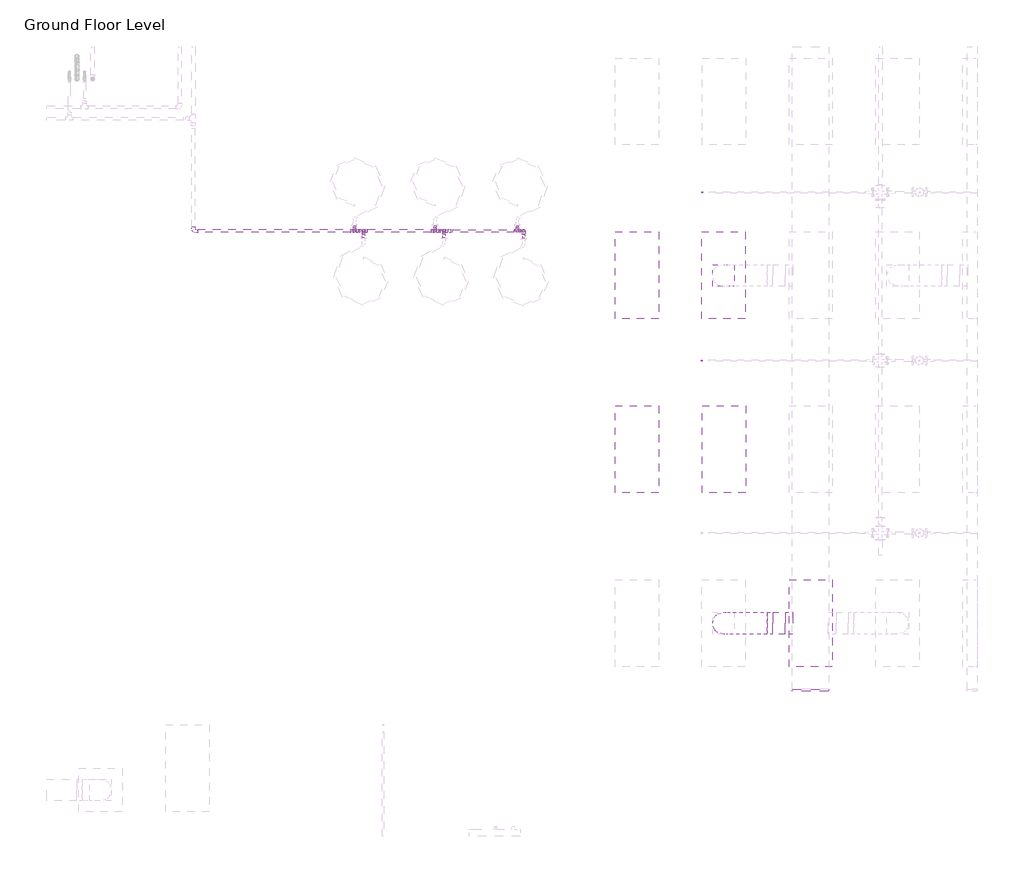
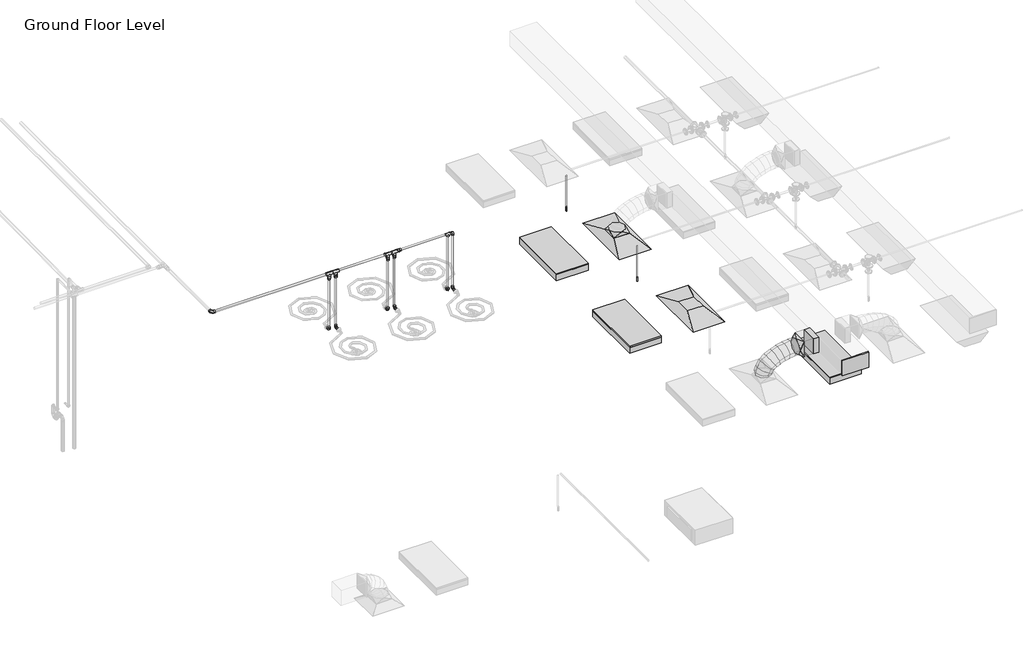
# One storey, part 43 of 68: 20 pipe segments, 18 pipe fittings, 4 duct fittings, 3 light fixtures, 2 air terminals, 2 duct segments, 2 fire suppression terminals.
"""IFC4 building model written with IfcOpenShell, lengths in millimetres."""

from ifc_helpers import new_model, si_unit, point, frame, frame_2d, origin, place, context, project, spatial, polyline, circle_curve, ellipse_curve, trimmed, segment, composite_curve, outline, extrude, transform, mapped, element, save
from ifc_brep_helpers import plane_surface, cylinder_surface, advanced_brep
from components import m_return_diffuser_1200x600_1200_x_600_face_300_x_300_d1983ef6, m_rectangular_endcap_standard_72d4d00d, m_rectangular_takeoff_standard_2be5eba1, m_rectangular_to_round_transition_angle_45_degree_641efff0, m_sprinkler_dry_pendent_hosted_15_mm_dry_pendent_9bda8e11, m_troffer_light_parabolic_rectangular1_0600x1200mm_4_lamp_86473d4a, standard_517a5a8d, standard_72b35c3b, standard_08ff6011, standard_d0d0b892, standard_69e4ce0e

model = new_model("IFC4")

# Units and contexts
model_context = context("Model", 3, world=origin())
ifc_project = project(units=[si_unit("LENGTHUNIT", "METRE", prefix="MILLI")], contexts=[model_context])

# Site, building, storey
site = spatial("IfcSite", under=ifc_project)
building = spatial("IfcBuilding", under=site)
storey = spatial("IfcBuildingStorey", under=building, Name="Ground Floor Level", Elevation=900.0)

# Air terminals
placement = place(None, origin())
m_return_diffuser_1200x600_1200_x_600_face_300_x_300_shape = m_return_diffuser_1200x600_1200_x_600_face_300_x_300_d1983ef6(model_context)
element("IfcAirTerminal", 1, ObjectType="M_Return Diffuser 1200x600 : 1200 x 600 Face 300 x 300 Connection", at=placement, inside=storey, context=model_context, shape_type="MappedRepresentation", body=[
    mapped(m_return_diffuser_1200x600_1200_x_600_face_300_x_300_shape, transform((-8137.2327605, 4035.2153534, 3650.0), x_axis=(0.0, 1.0, 0.0), y_axis=(-1.0, 0.0, 0.0), z_axis=(0.0, 0.0, 1.0))),
])
element("IfcAirTerminal", 2, ObjectType="M_Supply Diffuser 1200x600 : 1200 x 600 Face 300 x 300 Connection", at=placement, inside=storey, context=model_context, shape_type="MappedRepresentation", body=[
    mapped(m_return_diffuser_1200x600_1200_x_600_face_300_x_300_shape, transform((-8142.6846929, 6435.2153534, 3650.0), x_axis=(0.0, 1.0, 0.0), y_axis=(-1.0, 0.0, 0.0), z_axis=(0.0, 0.0, 1.0))),
])

# Duct fittings
m_rectangular_endcap_standard_shape = m_rectangular_endcap_standard_72d4d00d(model_context)
element("IfcDuctFitting", 3, ObjectType="M_Rectangular Endcap : Standard", at=placement, inside=storey, context=model_context, shape_type="MappedRepresentation", body=[
    mapped(m_rectangular_endcap_standard_shape, transform((-6939.6910789, 725.2153534, 4150.0), x_axis=(0.0, -1.0, 0.0), y_axis=(1.0, 0.0, 0.0), z_axis=(0.0, 0.0, 1.0))),
])
m_rectangular_takeoff_standard_shape = m_rectangular_takeoff_standard_2be5eba1(model_context)
element("IfcDuctFitting", 4, ObjectType="M_Rectangular Takeoff : Standard", at=placement, inside=storey, context=model_context, shape_type="MappedRepresentation", body=[
    mapped(m_rectangular_takeoff_standard_shape, transform((-7189.6910789, 1635.2153534, 4150.0), x_axis=(-1.0, 0.0, 0.0), y_axis=(0.0, 1.0, 0.0), z_axis=(0.0, 0.0, -1.0))),
])
m_rectangular_to_round_transition_angle_45_degree_shape = m_rectangular_to_round_transition_angle_45_degree_641efff0(model_context)
element("IfcDuctFitting", 5, ObjectType="M_Rectangular to Round Transition - Angle : 45 Degree", at=placement, inside=storey, context=model_context, shape_type="MappedRepresentation", body=[
    mapped(m_rectangular_to_round_transition_angle_45_degree_shape, transform((-8142.6846929, 6435.2153534, 3751.6), x_axis=(0.0, 0.0, 1.0), y_axis=(-1.0, 0.0, 0.0), z_axis=(0.0, -1.0, 0.0))),
])
element("IfcDuctFitting", 6, ObjectType="M_Rectangular to Round Transition - Angle : 45 Degree", at=placement, inside=storey, context=model_context, shape_type="MappedRepresentation", body=[
    mapped(m_rectangular_to_round_transition_angle_45_degree_shape, transform((-7461.2487616, 1635.2153534, 4150.0), x_axis=(-1.0, 0.0, 0.0), y_axis=(0.0, -1.0, 0.0), z_axis=(0.0, 0.0, 1.0))),
])

# Duct segments
element("IfcDuctSegment", 7, ObjectType="Flex - Round", at=placement, inside=storey, context=model_context, shape_type="AdvancedBrep", body=[
    advanced_brep(
    [(-7992.6846929, 1635.2153534, 3826.6), (-8142.6846929, 1485.2153534, 3826.6), (-8292.6846929, 1635.2153534, 3826.6), (-8142.6846929, 1785.2153534, 3826.6), (-7992.6846929, 1635.2153534, 3832.4838104), (-8142.6846929, 1485.2153534, 3857.3049615), (-8292.6846929, 1635.2153534, 3882.1261126), (-8142.6846929, 1785.2153534, 3857.3049615), (-7990.555208, 1635.2153534, 3838.7421096), (-8126.0232883, 1485.2153534, 3906.2708192), (-8261.4913687, 1635.2153534, 3973.7995287), (-8126.0232883, 1785.2153534, 3906.2708192), (-7968.5331802, 1635.2153534, 3871.1472855), (-8080.1452707, 1485.2153534, 3973.7798261), (-8191.7573612, 1635.2153534, 4076.4123668), (-8080.1452707, 1785.2153534, 3973.7798261), (-7928.5904556, 1635.2153534, 3903.4915826), (-8011.2099341, 1485.2153534, 4029.6013814), (-8093.8294126, 1635.2153534, 4155.7111802), (-8011.2099341, 1785.2153534, 4029.6013814), (-7865.6682729, 1635.2153534, 3936.1928758), (-7925.3765727, 1485.2153534, 4074.2098454), (-7985.0848725, 1635.2153534, 4212.226815), (-7925.3765727, 1785.2153534, 4074.2098454), (-7786.815881, 1635.2153534, 3963.8479616), (-7828.8044806, 1485.2153534, 4108.0795788), (-7870.7930803, 1635.2153534, 4252.311196), (-7828.8044806, 1785.2153534, 4108.0795788), (-7700.2438983, 1635.2153534, 3984.0509494), (-7727.652952, 1485.2153534, 4131.684942), (-7755.0620057, 1635.2153534, 4279.3189347), (-7727.652952, 1785.2153534, 4131.684942), (-7613.759715, 1635.2153534, 3996.0504424), (-7628.081281, 1485.2153534, 4145.5002956), (-7642.4028469, 1635.2153534, 4294.9501488), (-7628.081281, 1785.2153534, 4145.5002956), (-7539.5984134, 1635.2153534, 4000.0), (-7543.5898089, 1485.2153534, 4150.0), (-7547.5812043, 1635.2153534, 4300.0), (-7543.5898089, 1785.2153534, 4150.0), (-7536.2487616, 1635.2153534, 4000.0), (-7536.2487616, 1785.2153534, 4150.0), (-7536.2487616, 1635.2153534, 4300.0), (-7536.2487616, 1485.2153534, 4150.0)],
    [
        (0, 1, circle_curve(frame((-8142.6846929, 1635.2153534, 3826.6), z_axis=(0.0, 0.0, -1.0), x_axis=(1.0, 0.0, 0.0)), 150.0)),
        (1, 2, circle_curve(frame((-8142.6846929, 1635.2153534, 3826.6), z_axis=(0.0, 0.0, -1.0), x_axis=(1.0, 0.0, 0.0)), 150.0)),
        (2, 3, circle_curve(frame((-8142.6846929, 1635.2153534, 3826.6), z_axis=(0.0, 0.0, -1.0), x_axis=(1.0, 0.0, 0.0)), 150.0)),
        (3, 0, circle_curve(frame((-8142.6846929, 1635.2153534, 3826.6), z_axis=(0.0, 0.0, -1.0), x_axis=(1.0, 0.0, 0.0)), 150.0)),
        (0, 4),
        (4, 5, ellipse_curve(frame((-8142.6846929, 1635.2153534, 3857.3049615), z_axis=(-0.1632543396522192, 0.0, -0.9865840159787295), x_axis=(0.9865840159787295, 0.0, -0.16325433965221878)), 152.039763, 150.0)),
        (5, 1),
        (5, 6, ellipse_curve(frame((-8142.6846929, 1635.2153534, 3857.3049615), z_axis=(-0.1632543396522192, 0.0, -0.9865840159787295), x_axis=(0.9865840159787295, 0.0, -0.16325433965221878)), 152.039763, 150.0)),
        (6, 2),
        (6, 7, ellipse_curve(frame((-8142.6846929, 1635.2153534, 3857.3049615), z_axis=(-0.1632543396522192, 0.0, -0.9865840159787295), x_axis=(0.9865840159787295, 0.0, -0.16325433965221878)), 152.039763, 150.0)),
        (7, 3),
        (7, 4, ellipse_curve(frame((-8142.6846929, 1635.2153534, 3857.3049615), z_axis=(-0.1632543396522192, 0.0, -0.9865840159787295), x_axis=(0.9865840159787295, 0.0, -0.16325433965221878)), 152.039763, 150.0)),
        (4, 8),
        (8, 9, ellipse_curve(frame((-8126.0232883, 1635.2153534, 3906.2708192), z_axis=(-0.44612805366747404, 0.0, -0.8949691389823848), x_axis=(0.8949691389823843, 0.0, -0.44612805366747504)), 151.366203, 150.0)),
        (9, 5),
        (9, 10, ellipse_curve(frame((-8126.0232883, 1635.2153534, 3906.2708192), z_axis=(-0.44612805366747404, 0.0, -0.8949691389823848), x_axis=(0.8949691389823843, 0.0, -0.44612805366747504)), 151.366203, 150.0)),
        (10, 6),
        (10, 11, ellipse_curve(frame((-8126.0232883, 1635.2153534, 3906.2708192), z_axis=(-0.44612805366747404, 0.0, -0.8949691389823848), x_axis=(0.8949691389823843, 0.0, -0.44612805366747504)), 151.366203, 150.0)),
        (11, 7),
        (11, 8, ellipse_curve(frame((-8126.0232883, 1635.2153534, 3906.2708192), z_axis=(-0.44612805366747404, 0.0, -0.8949691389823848), x_axis=(0.8949691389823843, 0.0, -0.44612805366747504)), 151.366203, 150.0)),
        (8, 12),
        (12, 13, ellipse_curve(frame((-8080.1452707, 1635.2153534, 3973.7798261), z_axis=(-0.6768758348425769, 0.0, -0.7360972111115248), x_axis=(0.7360972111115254, 0.0, -0.6768758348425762)), 151.6268352, 150.0)),
        (13, 9),
        (13, 14, ellipse_curve(frame((-8080.1452707, 1635.2153534, 3973.7798261), z_axis=(-0.6768758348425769, 0.0, -0.7360972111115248), x_axis=(0.7360972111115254, 0.0, -0.6768758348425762)), 151.6268352, 150.0)),
        (14, 10),
        (14, 15, ellipse_curve(frame((-8080.1452707, 1635.2153534, 3973.7798261), z_axis=(-0.6768758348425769, 0.0, -0.7360972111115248), x_axis=(0.7360972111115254, 0.0, -0.6768758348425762)), 151.6268352, 150.0)),
        (15, 11),
        (15, 12, ellipse_curve(frame((-8080.1452707, 1635.2153534, 3973.7798261), z_axis=(-0.6768758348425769, 0.0, -0.7360972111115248), x_axis=(0.7360972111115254, 0.0, -0.6768758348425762)), 151.6268352, 150.0)),
        (12, 16),
        (16, 17, ellipse_curve(frame((-8011.2099341, 1635.2153534, 4029.6013814), z_axis=(-0.8364738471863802, 0.0, -0.5480068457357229), x_axis=(0.5480068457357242, 0.0, -0.8364738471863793)), 150.7635884, 150.0)),
        (17, 13),
        (17, 18, ellipse_curve(frame((-8011.2099341, 1635.2153534, 4029.6013814), z_axis=(-0.8364738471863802, 0.0, -0.5480068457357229), x_axis=(0.5480068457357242, 0.0, -0.8364738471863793)), 150.7635884, 150.0)),
        (18, 14),
        (18, 19, ellipse_curve(frame((-8011.2099341, 1635.2153534, 4029.6013814), z_axis=(-0.8364738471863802, 0.0, -0.5480068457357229), x_axis=(0.5480068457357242, 0.0, -0.8364738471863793)), 150.7635884, 150.0)),
        (19, 15),
        (19, 16, ellipse_curve(frame((-8011.2099341, 1635.2153534, 4029.6013814), z_axis=(-0.8364738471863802, 0.0, -0.5480068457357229), x_axis=(0.5480068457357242, 0.0, -0.8364738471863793)), 150.7635884, 150.0)),
        (16, 20),
        (20, 21, ellipse_curve(frame((-7925.3765727, 1635.2153534, 4074.2098454), z_axis=(-0.9177957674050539, 0.0, -0.39705280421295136), x_axis=(0.39705280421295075, 0.0, -0.9177957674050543)), 150.3787384, 150.0)),
        (21, 17),
        (21, 22, ellipse_curve(frame((-7925.3765727, 1635.2153534, 4074.2098454), z_axis=(-0.9177957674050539, 0.0, -0.39705280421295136), x_axis=(0.39705280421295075, 0.0, -0.9177957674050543)), 150.3787384, 150.0)),
        (22, 18),
        (22, 23, ellipse_curve(frame((-7925.3765727, 1635.2153534, 4074.2098454), z_axis=(-0.9177957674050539, 0.0, -0.39705280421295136), x_axis=(0.39705280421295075, 0.0, -0.9177957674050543)), 150.3787384, 150.0)),
        (23, 19),
        (23, 20, ellipse_curve(frame((-7925.3765727, 1635.2153534, 4074.2098454), z_axis=(-0.9177957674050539, 0.0, -0.39705280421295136), x_axis=(0.39705280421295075, 0.0, -0.9177957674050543)), 150.3787384, 150.0)),
        (20, 24),
        (24, 25, ellipse_curve(frame((-7828.8044806, 1635.2153534, 4108.0795788), z_axis=(-0.9601411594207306, 0.0, -0.2795155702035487), x_axis=(0.27951557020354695, 0.0, -0.9601411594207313)), 150.2191795, 150.0)),
        (25, 21),
        (25, 26, ellipse_curve(frame((-7828.8044806, 1635.2153534, 4108.0795788), z_axis=(-0.9601411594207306, 0.0, -0.2795155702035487), x_axis=(0.27951557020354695, 0.0, -0.9601411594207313)), 150.2191795, 150.0)),
        (26, 22),
        (26, 27, ellipse_curve(frame((-7828.8044806, 1635.2153534, 4108.0795788), z_axis=(-0.9601411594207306, 0.0, -0.2795155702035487), x_axis=(0.27951557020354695, 0.0, -0.9601411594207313)), 150.2191795, 150.0)),
        (27, 23),
        (27, 24, ellipse_curve(frame((-7828.8044806, 1635.2153534, 4108.0795788), z_axis=(-0.9601411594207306, 0.0, -0.2795155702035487), x_axis=(0.27951557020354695, 0.0, -0.9601411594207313)), 150.2191795, 150.0)),
        (24, 28),
        (28, 29, ellipse_curve(frame((-7727.652952, 1635.2153534, 4131.684942), z_axis=(-0.9831991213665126, 0.0, -0.1825362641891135), x_axis=(0.1825362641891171, 0.0, -0.9831991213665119)), 150.1567581, 150.0)),
        (29, 25),
        (29, 30, ellipse_curve(frame((-7727.652952, 1635.2153534, 4131.684942), z_axis=(-0.9831991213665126, 0.0, -0.1825362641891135), x_axis=(0.1825362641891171, 0.0, -0.9831991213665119)), 150.1567581, 150.0)),
        (30, 26),
        (30, 31, ellipse_curve(frame((-7727.652952, 1635.2153534, 4131.684942), z_axis=(-0.9831991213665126, 0.0, -0.1825362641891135), x_axis=(0.1825362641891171, 0.0, -0.9831991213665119)), 150.1567581, 150.0)),
        (31, 27),
        (31, 28, ellipse_curve(frame((-7727.652952, 1635.2153534, 4131.684942), z_axis=(-0.9831991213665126, 0.0, -0.1825362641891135), x_axis=(0.1825362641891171, 0.0, -0.9831991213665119)), 150.1567581, 150.0)),
        (28, 32),
        (32, 33, ellipse_curve(frame((-7628.081281, 1635.2153534, 4145.5002956), z_axis=(-0.9954398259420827, 0.0, -0.09539157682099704), x_axis=(0.09539157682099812, 0.0, -0.9954398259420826)), 150.1344926, 150.0)),
        (33, 29),
        (33, 34, ellipse_curve(frame((-7628.081281, 1635.2153534, 4145.5002956), z_axis=(-0.9954398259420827, 0.0, -0.09539157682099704), x_axis=(0.09539157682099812, 0.0, -0.9954398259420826)), 150.1344926, 150.0)),
        (34, 30),
        (34, 35, ellipse_curve(frame((-7628.081281, 1635.2153534, 4145.5002956), z_axis=(-0.9954398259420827, 0.0, -0.09539157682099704), x_axis=(0.09539157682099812, 0.0, -0.9954398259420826)), 150.1344926, 150.0)),
        (35, 31),
        (35, 32, ellipse_curve(frame((-7628.081281, 1635.2153534, 4145.5002956), z_axis=(-0.9954398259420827, 0.0, -0.09539157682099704), x_axis=(0.09539157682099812, 0.0, -0.9954398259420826)), 150.1344926, 150.0)),
        (32, 36),
        (36, 37, ellipse_curve(frame((-7543.5898089, 1635.2153534, 4150.0), z_axis=(-0.9996461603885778, 0.0, -0.026599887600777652), x_axis=(0.026599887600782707, 0.0, -0.9996461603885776)), 150.0530947, 150.0)),
        (37, 33),
        (37, 38, ellipse_curve(frame((-7543.5898089, 1635.2153534, 4150.0), z_axis=(-0.9996461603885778, 0.0, -0.026599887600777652), x_axis=(0.026599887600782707, 0.0, -0.9996461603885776)), 150.0530947, 150.0)),
        (38, 34),
        (38, 39, ellipse_curve(frame((-7543.5898089, 1635.2153534, 4150.0), z_axis=(-0.9996461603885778, 0.0, -0.026599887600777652), x_axis=(0.026599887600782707, 0.0, -0.9996461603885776)), 150.0530947, 150.0)),
        (39, 35),
        (39, 36, ellipse_curve(frame((-7543.5898089, 1635.2153534, 4150.0), z_axis=(-0.9996461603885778, 0.0, -0.026599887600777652), x_axis=(0.026599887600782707, 0.0, -0.9996461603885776)), 150.0530947, 150.0)),
        (40, 41, circle_curve(frame((-7536.2487616, 1635.2153534, 4150.0), z_axis=(1.0, 0.0, 0.0), x_axis=(0.0, 0.0, -1.0)), 150.0)),
        (41, 42, circle_curve(frame((-7536.2487616, 1635.2153534, 4150.0), z_axis=(1.0, 0.0, 0.0), x_axis=(0.0, 0.0, -1.0)), 150.0)),
        (42, 43, circle_curve(frame((-7536.2487616, 1635.2153534, 4150.0), z_axis=(1.0, 0.0, 0.0), x_axis=(0.0, 0.0, -1.0)), 150.0)),
        (43, 40, circle_curve(frame((-7536.2487616, 1635.2153534, 4150.0), z_axis=(1.0, 0.0, 0.0), x_axis=(0.0, 0.0, -1.0)), 150.0)),
        (36, 40),
        (43, 37),
        (42, 38),
        (41, 39),
    ],
    [
        plane_surface(frame((-8142.6846929, 1485.2153534, 3826.6), z_axis=(0.0, 0.0, -1.0), x_axis=(1.0, 0.0, 0.0))),
        cylinder_surface(frame((-8142.6846929, 1635.2153534, 3826.6), z_axis=(0.0, 0.0, -1.0), x_axis=(1.0, 0.0, 0.0)), 150.0),
        cylinder_surface(frame((-8142.6846929, 1635.2153534, 3857.3049615), z_axis=(-0.32212824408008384, 0.0, -0.9466960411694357), x_axis=(0.9466960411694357, 0.0, -0.32212824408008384)), 150.0),
        cylinder_surface(frame((-8126.0232883, 1635.2153534, 3906.2708192), z_axis=(-0.5620745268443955, 0.0, -0.8270865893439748), x_axis=(0.8270865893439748, 0.0, -0.5620745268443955)), 150.0),
        cylinder_surface(frame((-8080.1452707, 1635.2153534, 3973.7798261), z_axis=(-0.777152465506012, 0.0, -0.6293123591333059), x_axis=(0.6293123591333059, 0.0, -0.777152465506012)), 150.0),
        cylinder_surface(frame((-8011.2099341, 1635.2153534, 4029.6013814), z_axis=(-0.887322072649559, 0.0, -0.4611502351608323), x_axis=(0.4611502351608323, 0.0, -0.887322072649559)), 150.0),
        cylinder_surface(frame((-7925.3765727, 1635.2153534, 4074.2098454), z_axis=(-0.9436464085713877, 0.0, -0.3309553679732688), x_axis=(0.3309553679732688, 0.0, -0.9436464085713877)), 150.0),
        cylinder_surface(frame((-7828.8044806, 1635.2153534, 4108.0795788), z_axis=(-0.9738340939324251, 0.0, -0.22726010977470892), x_axis=(0.22726010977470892, 0.0, -0.9738340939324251)), 150.0),
        cylinder_surface(frame((-7727.652952, 1635.2153534, 4131.684942), z_axis=(-0.9905113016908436, 0.0, -0.137431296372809), x_axis=(0.137431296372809, 0.0, -0.9905113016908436)), 150.0),
        cylinder_surface(frame((-7628.081281, 1635.2153534, 4145.5002956), z_axis=(-0.998584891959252, 0.0, -0.05318095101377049), x_axis=(0.05318095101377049, 0.0, -0.998584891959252)), 150.0),
        plane_surface(frame((-7536.2487616, 1635.2153534, 4000.0), z_axis=(1.0, 0.0, 0.0), x_axis=(0.0, 1.0, 0.0))),
        cylinder_surface(frame((-7543.5898089, 1635.2153534, 4150.0), z_axis=(-1.0, 0.0, 0.0), x_axis=(0.0, 0.0, -1.0)), 150.0),
    ],
    [
        (0, [[1, 2, 3, 4]]),
        (1, [[-1, 5, 6, 7]]),
        (1, [[-2, -7, 8, 9]]),
        (1, [[-3, -9, 10, 11]]),
        (1, [[-4, -11, 12, -5]]),
        (2, [[-6, 13, 14, 15]]),
        (2, [[-8, -15, 16, 17]]),
        (2, [[-10, -17, 18, 19]]),
        (2, [[-12, -19, 20, -13]]),
        (3, [[-14, 21, 22, 23]]),
        (3, [[-16, -23, 24, 25]]),
        (3, [[-18, -25, 26, 27]]),
        (3, [[-20, -27, 28, -21]]),
        (4, [[-22, 29, 30, 31]]),
        (4, [[-24, -31, 32, 33]]),
        (4, [[-26, -33, 34, 35]]),
        (4, [[-28, -35, 36, -29]]),
        (5, [[-30, 37, 38, 39]]),
        (5, [[-32, -39, 40, 41]]),
        (5, [[-34, -41, 42, 43]]),
        (5, [[-36, -43, 44, -37]]),
        (6, [[-38, 45, 46, 47]]),
        (6, [[-40, -47, 48, 49]]),
        (6, [[-42, -49, 50, 51]]),
        (6, [[-44, -51, 52, -45]]),
        (7, [[-46, 53, 54, 55]]),
        (7, [[-48, -55, 56, 57]]),
        (7, [[-50, -57, 58, 59]]),
        (7, [[-52, -59, 60, -53]]),
        (8, [[-54, 61, 62, 63]]),
        (8, [[-56, -63, 64, 65]]),
        (8, [[-58, -65, 66, 67]]),
        (8, [[-60, -67, 68, -61]]),
        (9, [[-62, 69, 70, 71]]),
        (9, [[-64, -71, 72, 73]]),
        (9, [[-66, -73, 74, 75]]),
        (9, [[-68, -75, 76, -69]]),
        (10, [[77, 78, 79, 80]]),
        (11, [[-70, 81, -80, 82]]),
        (11, [[-72, -82, -79, 83]]),
        (11, [[-74, -83, -78, 84]]),
        (11, [[-76, -84, -77, -81]]),
    ],
),
])
element("IfcDuctSegment", 8, ObjectType="Radius Elbows / Taps", at=placement, inside=storey, context=model_context, shape_type="SweptSolid", body=[
    extrude(outline(polyline([(-7291.2910789, 1785.2153534), (-7291.2910789, 1485.2153534), (-7461.2487616, 1485.2153534), (-7461.2487616, 1785.2153534), (-7291.2910789, 1785.2153534)])), frame((0.0, 0.0, 4000.0), z_axis=(0.0, 0.0, 1.0), x_axis=(1.0, 0.0, 0.0)), (0.0, 0.0, 1.0), 300.0),
])

# Fire suppression terminals
m_sprinkler_dry_pendent_hosted_15_mm_dry_pendent_shape = m_sprinkler_dry_pendent_hosted_15_mm_dry_pendent_9bda8e11(model_context)
element("IfcFireSuppressionTerminal", 9, ObjectType="M_Sprinkler - Dry - Pendent - Hosted : 15 mm Dry Pendent", at=placement, inside=storey, context=model_context, shape_type="MappedRepresentation", body=[
    mapped(m_sprinkler_dry_pendent_hosted_15_mm_dry_pendent_shape, transform((-8437.2327605, 7582.7040742, 3650.0), x_axis=(1.0, 0.0, 0.0), y_axis=(0.0, -1.0, 0.0), z_axis=(0.0, 0.0, -1.0))),
])
element("IfcFireSuppressionTerminal", 10, ObjectType="M_Sprinkler - Dry - Pendent - Hosted : 15 mm Dry Pendent", at=placement, inside=storey, context=model_context, shape_type="MappedRepresentation", body=[
    mapped(m_sprinkler_dry_pendent_hosted_15_mm_dry_pendent_shape, transform((-8437.2327605, 5261.0372753, 3650.0), x_axis=(1.0, 0.0, 0.0), y_axis=(0.0, -1.0, 0.0), z_axis=(0.0, 0.0, -1.0))),
])

# Light fixtures
m_troffer_light_parabolic_rectangular1_0600x1200mm_4_lamp_shape = m_troffer_light_parabolic_rectangular1_0600x1200mm_4_lamp_86473d4a(model_context)
element("IfcLightFixture", 11, ObjectType="M_Troffer Light - Parabolic Rectangular1 : 0600x1200mm(4 Lamp) - 277V 2", at=placement, inside=storey, context=model_context, shape_type="MappedRepresentation", body=[
    mapped(m_troffer_light_parabolic_rectangular1_0600x1200mm_4_lamp_shape, transform((-9396.6986926, 6453.918855, 3650.0), x_axis=(0.0, 1.0, 0.0), y_axis=(-1.0, 0.0, 0.0), z_axis=(0.0, 0.0, 1.0))),
])
element("IfcLightFixture", 12, ObjectType="M_Troffer Light - Parabolic Rectangular1 : 0600x1200mm(4 Lamp) - 277V 2", at=placement, inside=storey, context=model_context, shape_type="MappedRepresentation", body=[
    mapped(m_troffer_light_parabolic_rectangular1_0600x1200mm_4_lamp_shape, transform((-9396.6986926, 4053.918855, 3650.0), x_axis=(0.0, 1.0, 0.0), y_axis=(-1.0, 0.0, 0.0), z_axis=(0.0, 0.0, 1.0))),
])
element("IfcLightFixture", 13, ObjectType="M_Troffer Light - Parabolic Rectangular1 : 0600x1200mm(4 Lamp) - 277V 2", at=placement, inside=storey, context=model_context, shape_type="MappedRepresentation", body=[
    mapped(m_troffer_light_parabolic_rectangular1_0600x1200mm_4_lamp_shape, transform((-6996.6986926, 1653.918855, 3650.0), x_axis=(0.0, 1.0, 0.0), y_axis=(-1.0, 0.0, 0.0), z_axis=(0.0, 0.0, 1.0))),
])

# Pipe fittings
standard_shape = standard_517a5a8d(model_context)
element("IfcPipeFitting", 14, ObjectType="M_Elbow - CPVC - Sch 40 : Standard", at=placement, inside=storey, context=model_context, shape_type="MappedRepresentation", body=[
    mapped(standard_shape, transform((-13107.2327605, 7049.9865561, 3200.0), x_axis=(0.0, 0.0, -1.0), y_axis=(0.0, -1.0, 0.0), z_axis=(-1.0, 0.0, 0.0))),
])
element("IfcPipeFitting", 15, ObjectType="M_Elbow - CPVC - Sch 40 : Standard", at=placement, inside=storey, context=model_context, shape_type="MappedRepresentation", body=[
    mapped(standard_shape, transform((-13232.2327605, 7049.9865561, 3200.0), x_axis=(0.0, 0.0, -1.0), y_axis=(0.0, 1.0, 0.0), z_axis=(1.0, 0.0, 0.0))),
])
element("IfcPipeFitting", 16, ObjectType="M_Elbow - CPVC - Sch 40 : Standard", at=placement, inside=storey, context=model_context, shape_type="MappedRepresentation", body=[
    mapped(standard_shape, transform((-12122.2327605, 7049.9865561, 3200.0), x_axis=(0.0, 0.0, -1.0), y_axis=(0.0, 1.0, 0.0), z_axis=(1.0, 0.0, 0.0))),
])
element("IfcPipeFitting", 17, ObjectType="M_Elbow - CPVC - Sch 40 : Standard", at=placement, inside=storey, context=model_context, shape_type="MappedRepresentation", body=[
    mapped(standard_shape, transform((-11997.2327605, 7049.9865561, 3200.0), x_axis=(0.0, 0.0, -1.0), y_axis=(0.0, -1.0, 0.0), z_axis=(-1.0, 0.0, 0.0))),
])
element("IfcPipeFitting", 18, ObjectType="M_Elbow - CPVC - Sch 40 : Standard", at=placement, inside=storey, context=model_context, shape_type="MappedRepresentation", body=[
    mapped(standard_shape, transform((-10987.2327605, 7049.9865561, 3200.0), x_axis=(0.0, 0.0, -1.0), y_axis=(0.0, 1.0, 0.0), z_axis=(1.0, 0.0, 0.0))),
])
element("IfcPipeFitting", 19, ObjectType="M_Elbow - CPVC - Sch 40 : Standard", at=placement, inside=storey, context=model_context, shape_type="MappedRepresentation", body=[
    mapped(standard_shape, transform((-10897.2327605, 7049.9865561, 3200.0), x_axis=(0.0, 0.0, -1.0), y_axis=(0.0, -1.0, 0.0), z_axis=(-1.0, 0.0, 0.0))),
])
element("IfcPipeFitting", 20, ObjectType="M_Elbow - CPVC - Sch 40 : Standard", at=placement, inside=storey, context=model_context, shape_type="MappedRepresentation", body=[
    mapped(standard_shape, transform((-10897.2327605, 7049.9865561, 4315.0), x_axis=(1.0, 0.0, 0.0), y_axis=(0.0, 0.0, -1.0), z_axis=(0.0, 1.0, 0.0))),
])
standard_2_shape = standard_72b35c3b(model_context)
element("IfcPipeFitting", 21, ObjectType="M_Tee - CPVC - Sch 40 : Standard", at=placement, inside=storey, context=model_context, shape_type="MappedRepresentation", body=[
    mapped(standard_2_shape, transform((-10987.2327605, 7049.9865561, 4315.0), x_axis=(-1.0, 0.0, 0.0), y_axis=(0.0, 0.0, 1.0), z_axis=(0.0, 1.0, 0.0))),
])
standard_3_shape = standard_08ff6011(model_context)
element("IfcPipeFitting", 22, ObjectType="M_Tee - CPVC - Sch 40 : Standard", at=placement, inside=storey, context=model_context, shape_type="MappedRepresentation", body=[
    mapped(standard_3_shape, transform((-13107.2327605, 7049.9865561, 4315.0), x_axis=(-1.0, 0.0, 0.0), y_axis=(0.0, 0.0, 1.0), z_axis=(0.0, 1.0, 0.0))),
])
element("IfcPipeFitting", 23, ObjectType="M_Tee - CPVC - Sch 40 : Standard", at=placement, inside=storey, context=model_context, shape_type="MappedRepresentation", body=[
    mapped(standard_3_shape, transform((-13232.2327605, 7049.9865561, 4315.0), x_axis=(-1.0, 0.0, 0.0), y_axis=(0.0, 0.0, 1.0), z_axis=(0.0, 1.0, 0.0))),
])
element("IfcPipeFitting", 24, ObjectType="M_Tee - CPVC - Sch 40 : Standard", at=placement, inside=storey, context=model_context, shape_type="MappedRepresentation", body=[
    mapped(standard_3_shape, transform((-12122.2327605, 7049.9865561, 4315.0), x_axis=(-1.0, 0.0, 0.0), y_axis=(0.0, 0.0, 1.0), z_axis=(0.0, 1.0, 0.0))),
])
element("IfcPipeFitting", 25, ObjectType="M_Tee - CPVC - Sch 40 : Standard", at=placement, inside=storey, context=model_context, shape_type="MappedRepresentation", body=[
    mapped(standard_3_shape, transform((-11997.2327605, 7049.9865561, 4315.0), x_axis=(-1.0, 0.0, 0.0), y_axis=(0.0, 0.0, 1.0), z_axis=(0.0, 1.0, 0.0))),
])
standard_4_shape = standard_d0d0b892(model_context)
element("IfcPipeFitting", 26, ObjectType="M_Coupling Reducing - CPVC - Sch 40 : Standard", at=placement, inside=storey, context=model_context, shape_type="MappedRepresentation", body=[
    mapped(standard_4_shape, transform((-13107.2327605, 7049.9865561, 4261.025), x_axis=(0.0, 0.0, -1.0), y_axis=(1.0, 0.0, 0.0), z_axis=(0.0, -1.0, 0.0))),
])
element("IfcPipeFitting", 27, ObjectType="M_Coupling Reducing - CPVC - Sch 40 : Standard", at=placement, inside=storey, context=model_context, shape_type="MappedRepresentation", body=[
    mapped(standard_4_shape, transform((-13232.2327605, 7049.9865561, 4261.025), x_axis=(0.0, 0.0, -1.0), y_axis=(-1.0, 0.0, 0.0), z_axis=(0.0, 1.0, 0.0))),
])
element("IfcPipeFitting", 28, ObjectType="M_Coupling Reducing - CPVC - Sch 40 : Standard", at=placement, inside=storey, context=model_context, shape_type="MappedRepresentation", body=[
    mapped(standard_4_shape, transform((-12122.2327605, 7049.9865561, 4261.025), x_axis=(0.0, 0.0, -1.0), y_axis=(-1.0, 0.0, 0.0), z_axis=(0.0, 1.0, 0.0))),
])
element("IfcPipeFitting", 29, ObjectType="M_Coupling Reducing - CPVC - Sch 40 : Standard", at=placement, inside=storey, context=model_context, shape_type="MappedRepresentation", body=[
    mapped(standard_4_shape, transform((-11997.2327605, 7049.9865561, 4261.025), x_axis=(0.0, 0.0, -1.0), y_axis=(1.0, 0.0, 0.0), z_axis=(0.0, -1.0, 0.0))),
])
element("IfcPipeFitting", 30, ObjectType="M_Coupling Reducing - CPVC - Sch 40 : Standard", at=placement, inside=storey, context=model_context, shape_type="MappedRepresentation", body=[
    mapped(standard_4_shape, transform((-11943.2577605, 7049.9865561, 4315.0), x_axis=(1.0, 0.0, 0.0), y_axis=(0.0, 1.0, 0.0), z_axis=(0.0, 0.0, 1.0))),
])
standard_5_shape = standard_69e4ce0e(model_context)
element("IfcPipeFitting", 31, ObjectType="M_Elbow - CPVC - Sch 40 : Standard", at=placement, inside=storey, context=model_context, shape_type="MappedRepresentation", body=[
    mapped(standard_5_shape, transform((-15455.6408298, 7049.9865561, 4315.0), x_axis=(0.0, -1.0, 0.0), y_axis=(1.0, 0.0, 0.0), z_axis=(0.0, 0.0, 1.0))),
])

# Pipe segments
element("IfcPipeSegment", 32, ObjectType="CPVC", at=placement, inside=storey, context=model_context, shape_type="SweptSolid", body=[
    extrude(outline(composite_curve([segment(trimmed(circle_curve(frame_2d((3200.0, -13107.2327605)), 16.7005), [point((3200.0, -13123.9332605))], [point((3183.2995, -13107.2327605))], False, "CARTESIAN"), True, "CONTINUOUS"), segment(trimmed(circle_curve(frame_2d((3200.0, -13107.2327605)), 16.7005), [point((3183.2995, -13107.2327605))], [point((3200.0, -13090.5322605))], False, "CARTESIAN"), True, "CONTINUOUS"), segment(trimmed(circle_curve(frame_2d((3200.0, -13107.2327605)), 16.7005), [point((3200.0, -13090.5322605))], [point((3216.7005, -13107.2327605))], False, "CARTESIAN"), True, "CONTINUOUS"), segment(trimmed(circle_curve(frame_2d((3200.0, -13107.2327605)), 16.7005), [point((3216.7005, -13107.2327605))], [point((3200.0, -13123.9332605))], False, "CARTESIAN"), True, "CONTINUOUS")], self_intersect=False)), frame((0.0, 6956.8347997, 0.0), z_axis=(0.0, 1.0, 0.0), x_axis=(0.0, 0.0, 1.0)), (0.0, 0.0, 1.0), 49.8892064),
])
element("IfcPipeSegment", 33, ObjectType="CPVC", at=placement, inside=storey, context=model_context, shape_type="SweptSolid", body=[
    extrude(outline(composite_curve([segment(trimmed(circle_curve(frame_2d((-13107.2327605, 7049.9865561)), 16.7005), [point((-13090.5322605, 7049.9865561))], [point((-13107.2327605, 7033.2860561))], False, "CARTESIAN"), True, "CONTINUOUS"), segment(trimmed(circle_curve(frame_2d((-13107.2327605, 7049.9865561)), 16.7005), [point((-13107.2327605, 7033.2860561))], [point((-13123.9332605, 7049.9865561))], False, "CARTESIAN"), True, "CONTINUOUS"), segment(trimmed(circle_curve(frame_2d((-13107.2327605, 7049.9865561)), 16.7005), [point((-13123.9332605, 7049.9865561))], [point((-13107.2327605, 7066.6870561))], False, "CARTESIAN"), True, "CONTINUOUS"), segment(trimmed(circle_curve(frame_2d((-13107.2327605, 7049.9865561)), 16.7005), [point((-13107.2327605, 7066.6870561))], [point((-13090.5322605, 7049.9865561))], False, "CARTESIAN"), True, "CONTINUOUS")], self_intersect=False)), frame((0.0, 0.0, 3243.26255), z_axis=(0.0, 0.0, 1.0), x_axis=(1.0, 0.0, 0.0)), (0.0, 0.0, 1.0), 951.643575),
])
element("IfcPipeSegment", 34, ObjectType="CPVC", at=placement, inside=storey, context=model_context, shape_type="SweptSolid", body=[
    extrude(outline(composite_curve([segment(trimmed(circle_curve(frame_2d((7049.9865561, 4315.0)), 21.082), [point((7028.9045561, 4315.0))], [point((7049.9865561, 4336.082))], False, "CARTESIAN"), True, "CONTINUOUS"), segment(trimmed(circle_curve(frame_2d((7049.9865561, 4315.0)), 21.082), [point((7049.9865561, 4336.082))], [point((7071.0685561, 4315.0))], False, "CARTESIAN"), True, "CONTINUOUS"), segment(trimmed(circle_curve(frame_2d((7049.9865561, 4315.0)), 21.082), [point((7071.0685561, 4315.0))], [point((7049.9865561, 4293.918))], False, "CARTESIAN"), True, "CONTINUOUS"), segment(trimmed(circle_curve(frame_2d((7049.9865561, 4315.0)), 21.082), [point((7049.9865561, 4293.918))], [point((7028.9045561, 4315.0))], False, "CARTESIAN"), True, "CONTINUOUS")], self_intersect=False)), frame((-13178.2577605, 0.0, 0.0), z_axis=(1.0, 0.0, 0.0), x_axis=(0.0, 1.0, 0.0)), (0.0, 0.0, 1.0), 17.05),
])
element("IfcPipeSegment", 35, ObjectType="CPVC", at=placement, inside=storey, context=model_context, shape_type="SweptSolid", body=[
    extrude(outline(composite_curve([segment(trimmed(circle_curve(frame_2d((3200.0, -13232.2327605)), 16.7005), [point((3200.0, -13215.5322605))], [point((3216.7005, -13232.2327605))], False, "CARTESIAN"), True, "CONTINUOUS"), segment(trimmed(circle_curve(frame_2d((3200.0, -13232.2327605)), 16.7005), [point((3216.7005, -13232.2327605))], [point((3200.0, -13248.9332605))], False, "CARTESIAN"), True, "CONTINUOUS"), segment(trimmed(circle_curve(frame_2d((3200.0, -13232.2327605)), 16.7005), [point((3200.0, -13248.9332605))], [point((3183.2995, -13232.2327605))], False, "CARTESIAN"), True, "CONTINUOUS"), segment(trimmed(circle_curve(frame_2d((3200.0, -13232.2327605)), 16.7005), [point((3183.2995, -13232.2327605))], [point((3200.0, -13215.5322605))], False, "CARTESIAN"), True, "CONTINUOUS")], self_intersect=False)), frame((0.0, 7093.2491061, 0.0), z_axis=(0.0, 1.0, 0.0), x_axis=(0.0, 0.0, 1.0)), (0.0, 0.0, 1.0), 30.346801),
])
element("IfcPipeSegment", 36, ObjectType="CPVC", at=placement, inside=storey, context=model_context, shape_type="SweptSolid", body=[
    extrude(outline(composite_curve([segment(trimmed(circle_curve(frame_2d((-13232.2327605, 7049.9865561)), 16.7005), [point((-13215.5322605, 7049.9865561))], [point((-13232.2327605, 7033.2860561))], False, "CARTESIAN"), True, "CONTINUOUS"), segment(trimmed(circle_curve(frame_2d((-13232.2327605, 7049.9865561)), 16.7005), [point((-13232.2327605, 7033.2860561))], [point((-13248.9332605, 7049.9865561))], False, "CARTESIAN"), True, "CONTINUOUS"), segment(trimmed(circle_curve(frame_2d((-13232.2327605, 7049.9865561)), 16.7005), [point((-13248.9332605, 7049.9865561))], [point((-13232.2327605, 7066.6870561))], False, "CARTESIAN"), True, "CONTINUOUS"), segment(trimmed(circle_curve(frame_2d((-13232.2327605, 7049.9865561)), 16.7005), [point((-13232.2327605, 7066.6870561))], [point((-13215.5322605, 7049.9865561))], False, "CARTESIAN"), True, "CONTINUOUS")], self_intersect=False)), frame((0.0, 0.0, 3243.26255), z_axis=(0.0, 0.0, 1.0), x_axis=(1.0, 0.0, 0.0)), (0.0, 0.0, 1.0), 951.643575),
])
element("IfcPipeSegment", 37, ObjectType="CPVC", at=placement, inside=storey, context=model_context, shape_type="SweptSolid", body=[
    extrude(outline(composite_curve([segment(trimmed(circle_curve(frame_2d((7049.9865561, 4315.0)), 21.082), [point((7028.9045561, 4315.0))], [point((7049.9865561, 4336.082))], False, "CARTESIAN"), True, "CONTINUOUS"), segment(trimmed(circle_curve(frame_2d((7049.9865561, 4315.0)), 21.082), [point((7049.9865561, 4336.082))], [point((7071.0685561, 4315.0))], False, "CARTESIAN"), True, "CONTINUOUS"), segment(trimmed(circle_curve(frame_2d((7049.9865561, 4315.0)), 21.082), [point((7071.0685561, 4315.0))], [point((7049.9865561, 4293.918))], False, "CARTESIAN"), True, "CONTINUOUS"), segment(trimmed(circle_curve(frame_2d((7049.9865561, 4315.0)), 21.082), [point((7049.9865561, 4293.918))], [point((7028.9045561, 4315.0))], False, "CARTESIAN"), True, "CONTINUOUS")], self_intersect=False)), frame((-15397.6970798, 0.0, 0.0), z_axis=(1.0, 0.0, 0.0), x_axis=(0.0, 1.0, 0.0)), (0.0, 0.0, 1.0), 2111.4893193),
])
element("IfcPipeSegment", 38, ObjectType="CPVC", at=placement, inside=storey, context=model_context, shape_type="SweptSolid", body=[
    extrude(outline(composite_curve([segment(trimmed(circle_curve(frame_2d((3200.0, -12122.2327605)), 16.7005), [point((3200.0, -12105.5322605))], [point((3216.7005, -12122.2327605))], False, "CARTESIAN"), True, "CONTINUOUS"), segment(trimmed(circle_curve(frame_2d((3200.0, -12122.2327605)), 16.7005), [point((3216.7005, -12122.2327605))], [point((3200.0, -12138.9332605))], False, "CARTESIAN"), True, "CONTINUOUS"), segment(trimmed(circle_curve(frame_2d((3200.0, -12122.2327605)), 16.7005), [point((3200.0, -12138.9332605))], [point((3183.2995, -12122.2327605))], False, "CARTESIAN"), True, "CONTINUOUS"), segment(trimmed(circle_curve(frame_2d((3200.0, -12122.2327605)), 16.7005), [point((3183.2995, -12122.2327605))], [point((3200.0, -12105.5322605))], False, "CARTESIAN"), True, "CONTINUOUS")], self_intersect=False)), frame((0.0, 7093.2491061, 0.0), z_axis=(0.0, 1.0, 0.0), x_axis=(0.0, 0.0, 1.0)), (0.0, 0.0, 1.0), 30.346801),
])
element("IfcPipeSegment", 39, ObjectType="CPVC", at=placement, inside=storey, context=model_context, shape_type="SweptSolid", body=[
    extrude(outline(composite_curve([segment(trimmed(circle_curve(frame_2d((-12122.2327605, 7049.9865561)), 16.7005), [point((-12105.5322605, 7049.9865561))], [point((-12122.2327605, 7033.2860561))], False, "CARTESIAN"), True, "CONTINUOUS"), segment(trimmed(circle_curve(frame_2d((-12122.2327605, 7049.9865561)), 16.7005), [point((-12122.2327605, 7033.2860561))], [point((-12138.9332605, 7049.9865561))], False, "CARTESIAN"), True, "CONTINUOUS"), segment(trimmed(circle_curve(frame_2d((-12122.2327605, 7049.9865561)), 16.7005), [point((-12138.9332605, 7049.9865561))], [point((-12122.2327605, 7066.6870561))], False, "CARTESIAN"), True, "CONTINUOUS"), segment(trimmed(circle_curve(frame_2d((-12122.2327605, 7049.9865561)), 16.7005), [point((-12122.2327605, 7066.6870561))], [point((-12105.5322605, 7049.9865561))], False, "CARTESIAN"), True, "CONTINUOUS")], self_intersect=False)), frame((0.0, 0.0, 3243.26255), z_axis=(0.0, 0.0, 1.0), x_axis=(1.0, 0.0, 0.0)), (0.0, 0.0, 1.0), 951.643575),
])
element("IfcPipeSegment", 40, ObjectType="CPVC", at=placement, inside=storey, context=model_context, shape_type="SweptSolid", body=[
    extrude(outline(composite_curve([segment(trimmed(circle_curve(frame_2d((7049.9865561, 4315.0)), 21.082), [point((7028.9045561, 4315.0))], [point((7049.9865561, 4336.082))], False, "CARTESIAN"), True, "CONTINUOUS"), segment(trimmed(circle_curve(frame_2d((7049.9865561, 4315.0)), 21.082), [point((7049.9865561, 4336.082))], [point((7071.0685561, 4315.0))], False, "CARTESIAN"), True, "CONTINUOUS"), segment(trimmed(circle_curve(frame_2d((7049.9865561, 4315.0)), 21.082), [point((7071.0685561, 4315.0))], [point((7049.9865561, 4293.918))], False, "CARTESIAN"), True, "CONTINUOUS"), segment(trimmed(circle_curve(frame_2d((7049.9865561, 4315.0)), 21.082), [point((7049.9865561, 4293.918))], [point((7028.9045561, 4315.0))], False, "CARTESIAN"), True, "CONTINUOUS")], self_intersect=False)), frame((-13053.2577605, 0.0, 0.0), z_axis=(1.0, 0.0, 0.0), x_axis=(0.0, 1.0, 0.0)), (0.0, 0.0, 1.0), 877.05),
])
element("IfcPipeSegment", 41, ObjectType="CPVC", at=placement, inside=storey, context=model_context, shape_type="SweptSolid", body=[
    extrude(outline(composite_curve([segment(trimmed(circle_curve(frame_2d((3200.0, -11997.2327605)), 16.7005), [point((3200.0, -12013.9332605))], [point((3183.2995, -11997.2327605))], False, "CARTESIAN"), True, "CONTINUOUS"), segment(trimmed(circle_curve(frame_2d((3200.0, -11997.2327605)), 16.7005), [point((3183.2995, -11997.2327605))], [point((3200.0, -11980.5322605))], False, "CARTESIAN"), True, "CONTINUOUS"), segment(trimmed(circle_curve(frame_2d((3200.0, -11997.2327605)), 16.7005), [point((3200.0, -11980.5322605))], [point((3216.7005, -11997.2327605))], False, "CARTESIAN"), True, "CONTINUOUS"), segment(trimmed(circle_curve(frame_2d((3200.0, -11997.2327605)), 16.7005), [point((3216.7005, -11997.2327605))], [point((3200.0, -12013.9332605))], False, "CARTESIAN"), True, "CONTINUOUS")], self_intersect=False)), frame((0.0, 6956.8347997, 0.0), z_axis=(0.0, 1.0, 0.0), x_axis=(0.0, 0.0, 1.0)), (0.0, 0.0, 1.0), 49.8892064),
])
element("IfcPipeSegment", 42, ObjectType="CPVC", at=placement, inside=storey, context=model_context, shape_type="SweptSolid", body=[
    extrude(outline(composite_curve([segment(trimmed(circle_curve(frame_2d((-11997.2327605, 7049.9865561)), 16.7005), [point((-11980.5322605, 7049.9865561))], [point((-11997.2327605, 7033.2860561))], False, "CARTESIAN"), True, "CONTINUOUS"), segment(trimmed(circle_curve(frame_2d((-11997.2327605, 7049.9865561)), 16.7005), [point((-11997.2327605, 7033.2860561))], [point((-12013.9332605, 7049.9865561))], False, "CARTESIAN"), True, "CONTINUOUS"), segment(trimmed(circle_curve(frame_2d((-11997.2327605, 7049.9865561)), 16.7005), [point((-12013.9332605, 7049.9865561))], [point((-11997.2327605, 7066.6870561))], False, "CARTESIAN"), True, "CONTINUOUS"), segment(trimmed(circle_curve(frame_2d((-11997.2327605, 7049.9865561)), 16.7005), [point((-11997.2327605, 7066.6870561))], [point((-11980.5322605, 7049.9865561))], False, "CARTESIAN"), True, "CONTINUOUS")], self_intersect=False)), frame((0.0, 0.0, 3243.26255), z_axis=(0.0, 0.0, 1.0), x_axis=(1.0, 0.0, 0.0)), (0.0, 0.0, 1.0), 951.643575),
])
element("IfcPipeSegment", 43, ObjectType="CPVC", at=placement, inside=storey, context=model_context, shape_type="SweptSolid", body=[
    extrude(outline(composite_curve([segment(trimmed(circle_curve(frame_2d((7049.9865561, 4315.0)), 21.082), [point((7028.9045561, 4315.0))], [point((7049.9865561, 4336.082))], False, "CARTESIAN"), True, "CONTINUOUS"), segment(trimmed(circle_curve(frame_2d((7049.9865561, 4315.0)), 21.082), [point((7049.9865561, 4336.082))], [point((7071.0685561, 4315.0))], False, "CARTESIAN"), True, "CONTINUOUS"), segment(trimmed(circle_curve(frame_2d((7049.9865561, 4315.0)), 21.082), [point((7071.0685561, 4315.0))], [point((7049.9865561, 4293.918))], False, "CARTESIAN"), True, "CONTINUOUS"), segment(trimmed(circle_curve(frame_2d((7049.9865561, 4315.0)), 21.082), [point((7049.9865561, 4293.918))], [point((7028.9045561, 4315.0))], False, "CARTESIAN"), True, "CONTINUOUS")], self_intersect=False)), frame((-12068.2577605, 0.0, 0.0), z_axis=(1.0, 0.0, 0.0), x_axis=(0.0, 1.0, 0.0)), (0.0, 0.0, 1.0), 17.05),
])
element("IfcPipeSegment", 44, ObjectType="CPVC", at=placement, inside=storey, context=model_context, shape_type="SweptSolid", body=[
    extrude(outline(composite_curve([segment(trimmed(circle_curve(frame_2d((3200.0, -10987.2327605)), 16.7005), [point((3200.0, -10970.5322605))], [point((3216.7005, -10987.2327605))], False, "CARTESIAN"), True, "CONTINUOUS"), segment(trimmed(circle_curve(frame_2d((3200.0, -10987.2327605)), 16.7005), [point((3216.7005, -10987.2327605))], [point((3200.0, -11003.9332605))], False, "CARTESIAN"), True, "CONTINUOUS"), segment(trimmed(circle_curve(frame_2d((3200.0, -10987.2327605)), 16.7005), [point((3200.0, -11003.9332605))], [point((3183.2995, -10987.2327605))], False, "CARTESIAN"), True, "CONTINUOUS"), segment(trimmed(circle_curve(frame_2d((3200.0, -10987.2327605)), 16.7005), [point((3183.2995, -10987.2327605))], [point((3200.0, -10970.5322605))], False, "CARTESIAN"), True, "CONTINUOUS")], self_intersect=False)), frame((0.0, 7093.2491061, 0.0), z_axis=(0.0, 1.0, 0.0), x_axis=(0.0, 0.0, 1.0)), (0.0, 0.0, 1.0), 30.346801),
])
element("IfcPipeSegment", 45, ObjectType="CPVC", at=placement, inside=storey, context=model_context, shape_type="SweptSolid", body=[
    extrude(outline(composite_curve([segment(trimmed(circle_curve(frame_2d((-10987.2327605, 7049.9865561)), 16.7005), [point((-10970.5322605, 7049.9865561))], [point((-10987.2327605, 7033.2860561))], False, "CARTESIAN"), True, "CONTINUOUS"), segment(trimmed(circle_curve(frame_2d((-10987.2327605, 7049.9865561)), 16.7005), [point((-10987.2327605, 7033.2860561))], [point((-11003.9332605, 7049.9865561))], False, "CARTESIAN"), True, "CONTINUOUS"), segment(trimmed(circle_curve(frame_2d((-10987.2327605, 7049.9865561)), 16.7005), [point((-11003.9332605, 7049.9865561))], [point((-10987.2327605, 7066.6870561))], False, "CARTESIAN"), True, "CONTINUOUS"), segment(trimmed(circle_curve(frame_2d((-10987.2327605, 7049.9865561)), 16.7005), [point((-10987.2327605, 7066.6870561))], [point((-10970.5322605, 7049.9865561))], False, "CARTESIAN"), True, "CONTINUOUS")], self_intersect=False)), frame((0.0, 0.0, 3243.26255), z_axis=(0.0, 0.0, 1.0), x_axis=(1.0, 0.0, 0.0)), (0.0, 0.0, 1.0), 1032.03725),
])
element("IfcPipeSegment", 46, ObjectType="CPVC", at=placement, inside=storey, context=model_context, shape_type="SweptSolid", body=[
    extrude(outline(composite_curve([segment(trimmed(circle_curve(frame_2d((7049.9865561, 4315.0)), 16.7005), [point((7033.2860561, 4315.0))], [point((7049.9865561, 4331.7005))], False, "CARTESIAN"), True, "CONTINUOUS"), segment(trimmed(circle_curve(frame_2d((7049.9865561, 4315.0)), 16.7005), [point((7049.9865561, 4331.7005))], [point((7066.6870561, 4315.0))], False, "CARTESIAN"), True, "CONTINUOUS"), segment(trimmed(circle_curve(frame_2d((7049.9865561, 4315.0)), 16.7005), [point((7066.6870561, 4315.0))], [point((7049.9865561, 4298.2995))], False, "CARTESIAN"), True, "CONTINUOUS"), segment(trimmed(circle_curve(frame_2d((7049.9865561, 4315.0)), 16.7005), [point((7049.9865561, 4298.2995))], [point((7033.2860561, 4315.0))], False, "CARTESIAN"), True, "CONTINUOUS")], self_intersect=False)), frame((-11877.1388855, 0.0, 0.0), z_axis=(1.0, 0.0, 0.0), x_axis=(0.0, 1.0, 0.0)), (0.0, 0.0, 1.0), 850.205925),
])
element("IfcPipeSegment", 47, ObjectType="CPVC", at=placement, inside=storey, context=model_context, shape_type="SweptSolid", body=[
    extrude(outline(composite_curve([segment(trimmed(circle_curve(frame_2d((3200.0, -10897.2327605)), 16.7005), [point((3200.0, -10913.9332605))], [point((3183.2995, -10897.2327605))], False, "CARTESIAN"), True, "CONTINUOUS"), segment(trimmed(circle_curve(frame_2d((3200.0, -10897.2327605)), 16.7005), [point((3183.2995, -10897.2327605))], [point((3200.0, -10880.5322605))], False, "CARTESIAN"), True, "CONTINUOUS"), segment(trimmed(circle_curve(frame_2d((3200.0, -10897.2327605)), 16.7005), [point((3200.0, -10880.5322605))], [point((3216.7005, -10897.2327605))], False, "CARTESIAN"), True, "CONTINUOUS"), segment(trimmed(circle_curve(frame_2d((3200.0, -10897.2327605)), 16.7005), [point((3216.7005, -10897.2327605))], [point((3200.0, -10913.9332605))], False, "CARTESIAN"), True, "CONTINUOUS")], self_intersect=False)), frame((0.0, 6946.8347997, 0.0), z_axis=(0.0, 1.0, 0.0), x_axis=(0.0, 0.0, 1.0)), (0.0, 0.0, 1.0), 59.8892065),
])
element("IfcPipeSegment", 48, ObjectType="CPVC", at=placement, inside=storey, context=model_context, shape_type="SweptSolid", body=[
    extrude(outline(composite_curve([segment(trimmed(circle_curve(frame_2d((-10897.2327605, 7049.9865561)), 16.7005), [point((-10880.5322605, 7049.9865561))], [point((-10897.2327605, 7033.2860561))], False, "CARTESIAN"), True, "CONTINUOUS"), segment(trimmed(circle_curve(frame_2d((-10897.2327605, 7049.9865561)), 16.7005), [point((-10897.2327605, 7033.2860561))], [point((-10913.9332605, 7049.9865561))], False, "CARTESIAN"), True, "CONTINUOUS"), segment(trimmed(circle_curve(frame_2d((-10897.2327605, 7049.9865561)), 16.7005), [point((-10913.9332605, 7049.9865561))], [point((-10897.2327605, 7066.6870561))], False, "CARTESIAN"), True, "CONTINUOUS"), segment(trimmed(circle_curve(frame_2d((-10897.2327605, 7049.9865561)), 16.7005), [point((-10897.2327605, 7066.6870561))], [point((-10880.5322605, 7049.9865561))], False, "CARTESIAN"), True, "CONTINUOUS")], self_intersect=False)), frame((0.0, 0.0, 3243.26255), z_axis=(0.0, 0.0, 1.0), x_axis=(1.0, 0.0, 0.0)), (0.0, 0.0, 1.0), 1028.4749),
])
element("IfcPipeSegment", 49, ObjectType="CPVC", at=placement, inside=storey, context=model_context, shape_type="SweptSolid", body=[
    extrude(outline(composite_curve([segment(trimmed(circle_curve(frame_2d((7049.9865561, 4315.0)), 16.7005), [point((7033.2860561, 4315.0))], [point((7049.9865561, 4331.7005))], False, "CARTESIAN"), True, "CONTINUOUS"), segment(trimmed(circle_curve(frame_2d((7049.9865561, 4315.0)), 16.7005), [point((7049.9865561, 4331.7005))], [point((7066.6870561, 4315.0))], False, "CARTESIAN"), True, "CONTINUOUS"), segment(trimmed(circle_curve(frame_2d((7049.9865561, 4315.0)), 16.7005), [point((7066.6870561, 4315.0))], [point((7049.9865561, 4298.2995))], False, "CARTESIAN"), True, "CONTINUOUS"), segment(trimmed(circle_curve(frame_2d((7049.9865561, 4315.0)), 16.7005), [point((7049.9865561, 4298.2995))], [point((7033.2860561, 4315.0))], False, "CARTESIAN"), True, "CONTINUOUS")], self_intersect=False)), frame((-10947.5325605, 0.0, 0.0), z_axis=(1.0, 0.0, 0.0), x_axis=(0.0, 1.0, 0.0)), (0.0, 0.0, 1.0), 7.03725),
])
element("IfcPipeSegment", 50, ObjectType="Steel flanged", at=placement, inside=storey, context=model_context, shape_type="SweptSolid", body=[
    extrude(outline(composite_curve([segment(trimmed(circle_curve(frame_2d((-8437.2327605, 7582.7040742)), 10.668), [point((-8447.9007605, 7582.7040742))], [point((-8437.2327605, 7593.3720742))], False, "CARTESIAN"), True, "CONTINUOUS"), segment(trimmed(circle_curve(frame_2d((-8437.2327605, 7582.7040742)), 10.668), [point((-8437.2327605, 7593.3720742))], [point((-8426.5647605, 7582.7040742))], False, "CARTESIAN"), True, "CONTINUOUS"), segment(trimmed(circle_curve(frame_2d((-8437.2327605, 7582.7040742)), 10.668), [point((-8426.5647605, 7582.7040742))], [point((-8437.2327605, 7572.0360742))], False, "CARTESIAN"), True, "CONTINUOUS"), segment(trimmed(circle_curve(frame_2d((-8437.2327605, 7582.7040742)), 10.668), [point((-8437.2327605, 7572.0360742))], [point((-8447.9007605, 7582.7040742))], False, "CARTESIAN"), True, "CONTINUOUS")], self_intersect=False)), frame((0.0, 0.0, 3650.0), z_axis=(0.0, 0.0, 1.0), x_axis=(1.0, 0.0, 0.0)), (0.0, 0.0, 1.0), 616.9914062),
])
element("IfcPipeSegment", 51, ObjectType="Steel flanged", at=placement, inside=storey, context=model_context, shape_type="SweptSolid", body=[
    extrude(outline(composite_curve([segment(trimmed(circle_curve(frame_2d((-8437.2327605, 5261.0372753)), 10.668), [point((-8447.9007605, 5261.0372753))], [point((-8437.2327605, 5271.7052753))], False, "CARTESIAN"), True, "CONTINUOUS"), segment(trimmed(circle_curve(frame_2d((-8437.2327605, 5261.0372753)), 10.668), [point((-8437.2327605, 5271.7052753))], [point((-8426.5647605, 5261.0372753))], False, "CARTESIAN"), True, "CONTINUOUS"), segment(trimmed(circle_curve(frame_2d((-8437.2327605, 5261.0372753)), 10.668), [point((-8426.5647605, 5261.0372753))], [point((-8437.2327605, 5250.3692753))], False, "CARTESIAN"), True, "CONTINUOUS"), segment(trimmed(circle_curve(frame_2d((-8437.2327605, 5261.0372753)), 10.668), [point((-8437.2327605, 5250.3692753))], [point((-8447.9007605, 5261.0372753))], False, "CARTESIAN"), True, "CONTINUOUS")], self_intersect=False)), frame((0.0, 0.0, 3650.0), z_axis=(0.0, 0.0, 1.0), x_axis=(1.0, 0.0, 0.0)), (0.0, 0.0, 1.0), 616.9914062),
])

save(model, "model.ifc")
